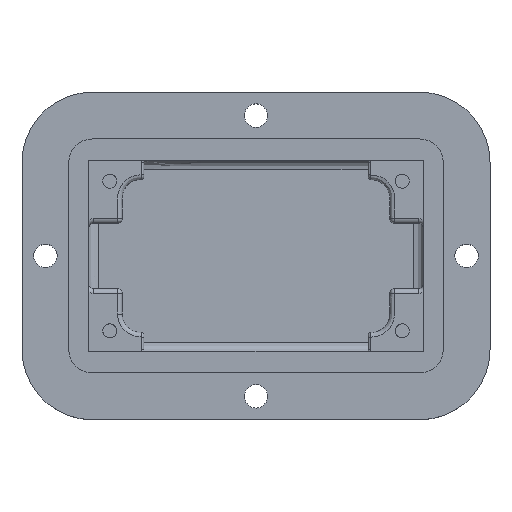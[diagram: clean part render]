
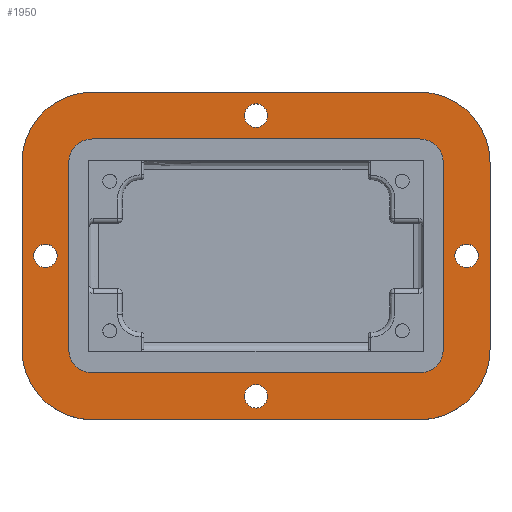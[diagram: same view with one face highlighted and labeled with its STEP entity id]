
A CAD part, top view. The second image highlights one B-rep face of the part: STEP entity #1950.
In plain terms, the highlighted planar face has unit normal (0, 0, 1).
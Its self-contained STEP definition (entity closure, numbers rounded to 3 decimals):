
#55=PLANE('',#2106);
#124=VECTOR('',#2435,1.);
#125=VECTOR('',#2438,1.);
#126=VECTOR('',#2441,1.);
#127=VECTOR('',#2444,1.);
#128=VECTOR('',#2447,1.);
#129=VECTOR('',#2450,1.);
#130=VECTOR('',#2453,1.);
#131=VECTOR('',#2456,1.);
#218=LINE('',#11863,#124);
#219=LINE('',#11868,#125);
#220=LINE('',#11872,#126);
#221=LINE('',#11876,#127);
#222=LINE('',#11879,#128);
#223=LINE('',#11884,#129);
#224=LINE('',#11888,#130);
#225=LINE('',#11892,#131);
#532=VERTEX_POINT('',#11813);
#534=VERTEX_POINT('',#11818);
#536=VERTEX_POINT('',#11823);
#538=VERTEX_POINT('',#11828);
#555=VERTEX_POINT('',#11864);
#556=VERTEX_POINT('',#11865);
#557=VERTEX_POINT('',#11867);
#558=VERTEX_POINT('',#11869);
#559=VERTEX_POINT('',#11871);
#560=VERTEX_POINT('',#11873);
#561=VERTEX_POINT('',#11875);
#562=VERTEX_POINT('',#11877);
#563=VERTEX_POINT('',#11880);
#564=VERTEX_POINT('',#11881);
#565=VERTEX_POINT('',#11883);
#566=VERTEX_POINT('',#11885);
#567=VERTEX_POINT('',#11887);
#568=VERTEX_POINT('',#11889);
#569=VERTEX_POINT('',#11891);
#570=VERTEX_POINT('',#11893);
#654=CIRCLE('',#2087,1.25);
#656=CIRCLE('',#2090,1.25);
#658=CIRCLE('',#2093,1.25);
#660=CIRCLE('',#2096,1.25);
#669=CIRCLE('',#2107,7.5);
#670=CIRCLE('',#2108,7.5);
#671=CIRCLE('',#2109,7.5);
#672=CIRCLE('',#2110,7.5);
#673=CIRCLE('',#2111,2.5);
#674=CIRCLE('',#2112,2.5);
#675=CIRCLE('',#2113,2.5);
#676=CIRCLE('',#2114,2.5);
#891=EDGE_CURVE('',#532,#532,#654,.T.);
#893=EDGE_CURVE('',#534,#534,#656,.T.);
#895=EDGE_CURVE('',#536,#536,#658,.T.);
#897=EDGE_CURVE('',#538,#538,#660,.T.);
#914=EDGE_CURVE('',#555,#556,#218,.T.);
#915=EDGE_CURVE('',#555,#557,#669,.T.);
#916=EDGE_CURVE('',#558,#557,#219,.T.);
#917=EDGE_CURVE('',#558,#559,#670,.T.);
#918=EDGE_CURVE('',#560,#559,#220,.T.);
#919=EDGE_CURVE('',#560,#561,#671,.T.);
#920=EDGE_CURVE('',#562,#561,#221,.T.);
#921=EDGE_CURVE('',#562,#556,#672,.T.);
#922=EDGE_CURVE('',#563,#564,#222,.T.);
#923=EDGE_CURVE('',#565,#563,#673,.T.);
#924=EDGE_CURVE('',#566,#565,#223,.T.);
#925=EDGE_CURVE('',#567,#566,#674,.T.);
#926=EDGE_CURVE('',#568,#567,#224,.T.);
#927=EDGE_CURVE('',#569,#568,#675,.T.);
#928=EDGE_CURVE('',#570,#569,#225,.T.);
#929=EDGE_CURVE('',#564,#570,#676,.T.);
#1378=ORIENTED_EDGE('',*,*,#914,.F.);
#1379=ORIENTED_EDGE('',*,*,#915,.T.);
#1380=ORIENTED_EDGE('',*,*,#916,.F.);
#1381=ORIENTED_EDGE('',*,*,#917,.T.);
#1382=ORIENTED_EDGE('',*,*,#918,.F.);
#1383=ORIENTED_EDGE('',*,*,#919,.T.);
#1384=ORIENTED_EDGE('',*,*,#920,.F.);
#1385=ORIENTED_EDGE('',*,*,#921,.T.);
#1386=ORIENTED_EDGE('',*,*,#922,.F.);
#1387=ORIENTED_EDGE('',*,*,#923,.F.);
#1388=ORIENTED_EDGE('',*,*,#924,.F.);
#1389=ORIENTED_EDGE('',*,*,#925,.F.);
#1390=ORIENTED_EDGE('',*,*,#926,.F.);
#1391=ORIENTED_EDGE('',*,*,#927,.F.);
#1392=ORIENTED_EDGE('',*,*,#928,.F.);
#1393=ORIENTED_EDGE('',*,*,#929,.F.);
#1394=ORIENTED_EDGE('',*,*,#897,.T.);
#1395=ORIENTED_EDGE('',*,*,#895,.T.);
#1396=ORIENTED_EDGE('',*,*,#893,.T.);
#1397=ORIENTED_EDGE('',*,*,#891,.T.);
#1659=EDGE_LOOP('',(#1378,#1379,#1380,#1381,#1382,#1383,#1384,#1385));
#1660=EDGE_LOOP('',(#1386,#1387,#1388,#1389,#1390,#1391,#1392,#1393));
#1661=EDGE_LOOP('',(#1394));
#1662=EDGE_LOOP('',(#1395));
#1663=EDGE_LOOP('',(#1396));
#1664=EDGE_LOOP('',(#1397));
#1815=FACE_BOUND('',#1659,.T.);
#1816=FACE_BOUND('',#1660,.T.);
#1817=FACE_BOUND('',#1661,.T.);
#1818=FACE_BOUND('',#1662,.T.);
#1819=FACE_BOUND('',#1663,.T.);
#1820=FACE_BOUND('',#1664,.T.);
#1950=ADVANCED_FACE('',(#1815,#1816,#1817,#1818,#1819,#1820),#55,.T.);
#2087=AXIS2_PLACEMENT_3D('',#11812,#2389,#2390);
#2090=AXIS2_PLACEMENT_3D('',#11817,#2395,#2396);
#2093=AXIS2_PLACEMENT_3D('',#11822,#2401,#2402);
#2096=AXIS2_PLACEMENT_3D('',#11827,#2407,#2408);
#2106=AXIS2_PLACEMENT_3D('',#11862,#2434,$);
#2107=AXIS2_PLACEMENT_3D('',#11866,#2436,#2437);
#2108=AXIS2_PLACEMENT_3D('',#11870,#2439,#2440);
#2109=AXIS2_PLACEMENT_3D('',#11874,#2442,#2443);
#2110=AXIS2_PLACEMENT_3D('',#11878,#2445,#2446);
#2111=AXIS2_PLACEMENT_3D('',#11882,#2448,#2449);
#2112=AXIS2_PLACEMENT_3D('',#11886,#2451,#2452);
#2113=AXIS2_PLACEMENT_3D('',#11890,#2454,#2455);
#2114=AXIS2_PLACEMENT_3D('',#11894,#2457,#2458);
#2389=DIRECTION('',(0.,0.,-1.));
#2390=DIRECTION('',(1.25,0.,0.));
#2395=DIRECTION('',(0.,0.,-1.));
#2396=DIRECTION('',(1.25,0.,0.));
#2401=DIRECTION('',(0.,0.,-1.));
#2402=DIRECTION('',(1.25,0.,0.));
#2407=DIRECTION('',(0.,0.,-1.));
#2408=DIRECTION('',(1.25,0.,0.));
#2434=DIRECTION('',(0.,0.,1.));
#2435=DIRECTION('',(-1.,0.,0.));
#2436=DIRECTION('',(0.,0.,1.));
#2437=DIRECTION('',(7.5,0.,0.));
#2438=DIRECTION('',(0.,-1.,0.));
#2439=DIRECTION('',(0.,0.,1.));
#2440=DIRECTION('',(7.5,0.,0.));
#2441=DIRECTION('',(1.,0.,0.));
#2442=DIRECTION('',(0.,0.,1.));
#2443=DIRECTION('',(7.5,0.,0.));
#2444=DIRECTION('',(0.,1.,0.));
#2445=DIRECTION('',(0.,0.,1.));
#2446=DIRECTION('',(7.5,0.,0.));
#2447=DIRECTION('',(1.,0.,0.));
#2448=DIRECTION('',(0.,0.,1.));
#2449=DIRECTION('',(-1.768,-1.768,0.));
#2450=DIRECTION('',(0.,-1.,0.));
#2451=DIRECTION('',(0.,0.,1.));
#2452=DIRECTION('',(-1.768,1.768,0.));
#2453=DIRECTION('',(-1.,0.,0.));
#2454=DIRECTION('',(0.,0.,1.));
#2455=DIRECTION('',(1.768,1.768,0.));
#2456=DIRECTION('',(0.,1.,0.));
#2457=DIRECTION('',(0.,0.,1.));
#2458=DIRECTION('',(1.768,-1.768,0.));
#11812=CARTESIAN_POINT('',(42.5,12.5,18.));
#11813=CARTESIAN_POINT('',(43.75,12.5,18.));
#11817=CARTESIAN_POINT('',(-2.5,12.5,18.));
#11818=CARTESIAN_POINT('',(-1.25,12.5,18.));
#11822=CARTESIAN_POINT('',(20.,-2.5,18.));
#11823=CARTESIAN_POINT('',(21.25,-2.5,18.));
#11827=CARTESIAN_POINT('',(20.,27.5,18.));
#11828=CARTESIAN_POINT('',(21.25,27.5,18.));
#11862=CARTESIAN_POINT('',(20.,12.5,18.));
#11863=CARTESIAN_POINT('',(37.5,-5.,18.));
#11864=CARTESIAN_POINT('',(37.5,-5.,18.));
#11865=CARTESIAN_POINT('',(2.5,-5.,18.));
#11866=CARTESIAN_POINT('',(37.5,2.5,18.));
#11867=CARTESIAN_POINT('',(45.,2.5,18.));
#11868=CARTESIAN_POINT('',(45.,22.5,18.));
#11869=CARTESIAN_POINT('',(45.,22.5,18.));
#11870=CARTESIAN_POINT('',(37.5,22.5,18.));
#11871=CARTESIAN_POINT('',(37.5,30.,18.));
#11872=CARTESIAN_POINT('',(2.5,30.,18.));
#11873=CARTESIAN_POINT('',(2.5,30.,18.));
#11874=CARTESIAN_POINT('',(2.5,22.5,18.));
#11875=CARTESIAN_POINT('',(-5.,22.5,18.));
#11876=CARTESIAN_POINT('',(-5.,2.5,18.));
#11877=CARTESIAN_POINT('',(-5.,2.5,18.));
#11878=CARTESIAN_POINT('',(2.5,2.5,18.));
#11879=CARTESIAN_POINT('',(20.,0.,18.));
#11880=CARTESIAN_POINT('',(2.5,0.,18.));
#11881=CARTESIAN_POINT('',(37.5,0.,18.));
#11882=CARTESIAN_POINT('',(2.5,2.5,18.));
#11883=CARTESIAN_POINT('',(0.,2.5,18.));
#11884=CARTESIAN_POINT('',(0.,12.5,18.));
#11885=CARTESIAN_POINT('',(0.,22.5,18.));
#11886=CARTESIAN_POINT('',(2.5,22.5,18.));
#11887=CARTESIAN_POINT('',(2.5,25.,18.));
#11888=CARTESIAN_POINT('',(20.,25.,18.));
#11889=CARTESIAN_POINT('',(37.5,25.,18.));
#11890=CARTESIAN_POINT('',(37.5,22.5,18.));
#11891=CARTESIAN_POINT('',(40.,22.5,18.));
#11892=CARTESIAN_POINT('',(40.,12.5,18.));
#11893=CARTESIAN_POINT('',(40.,2.5,18.));
#11894=CARTESIAN_POINT('',(37.5,2.5,18.));
